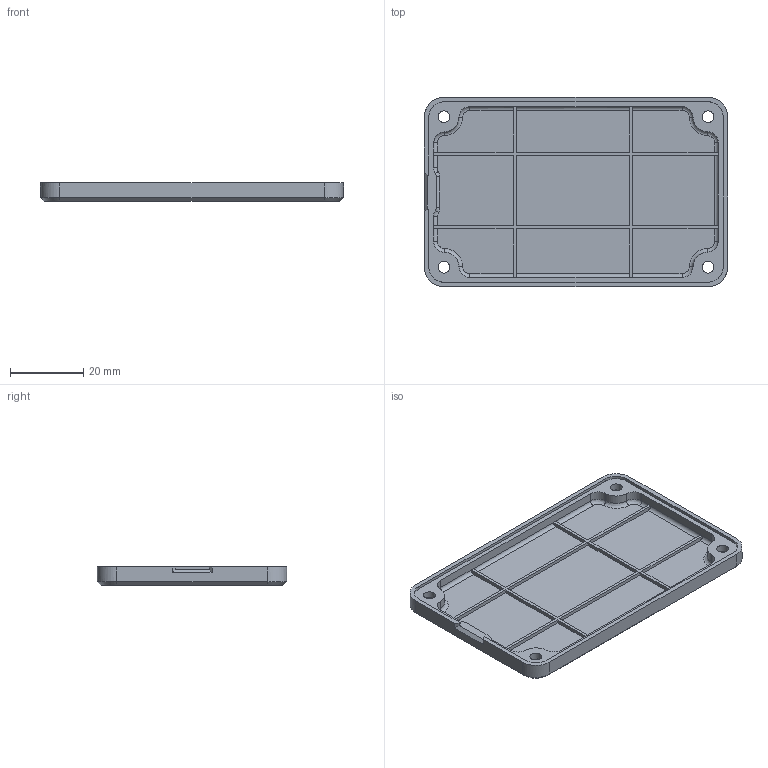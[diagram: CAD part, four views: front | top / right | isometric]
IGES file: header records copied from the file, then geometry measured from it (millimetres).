
Global section: file name: Glasgow_base; native system: unknown; preprocessor: unknown; author: unknown; organization: unknown; date: 20201028.092413; units: millimetre
Bounding box: 82.6 x 51.6 x 5 mm (x, y, z)
Volume: 6233.1 mm3; surface area: 11151.7 mm2
Topology: 1 solids, 1 shells, 175 faces, 441 edges, 274 vertices
Faces by surface type: bspline 175
